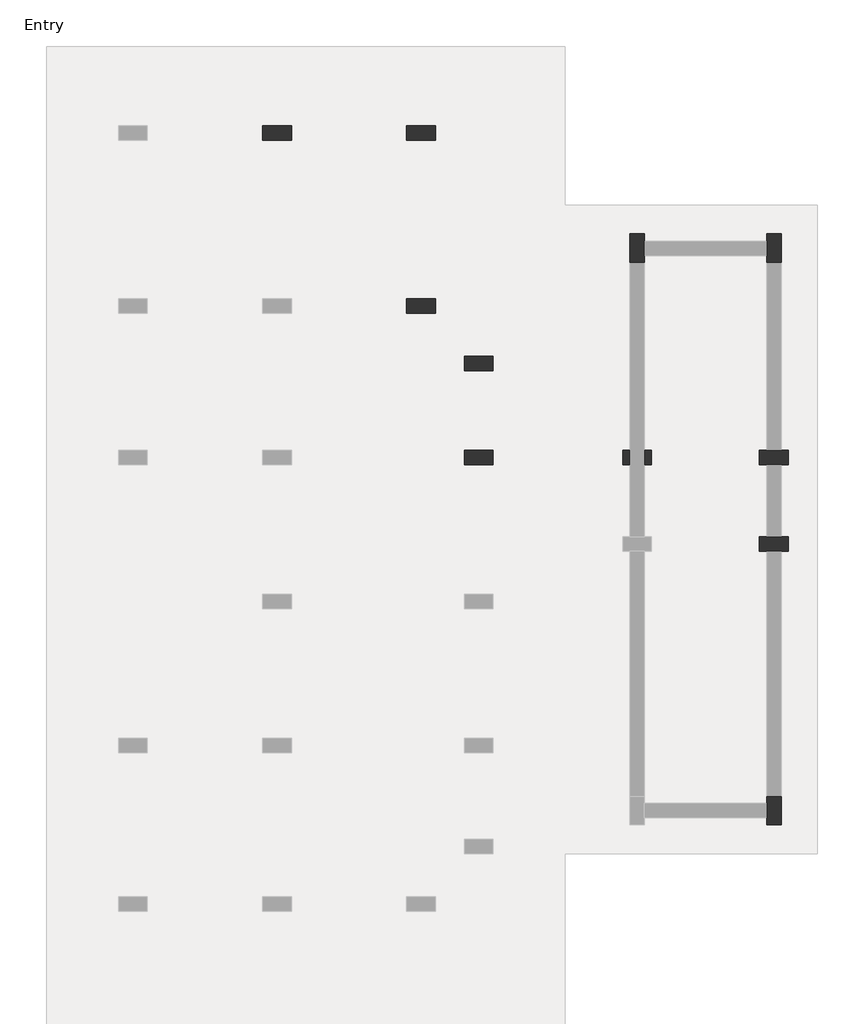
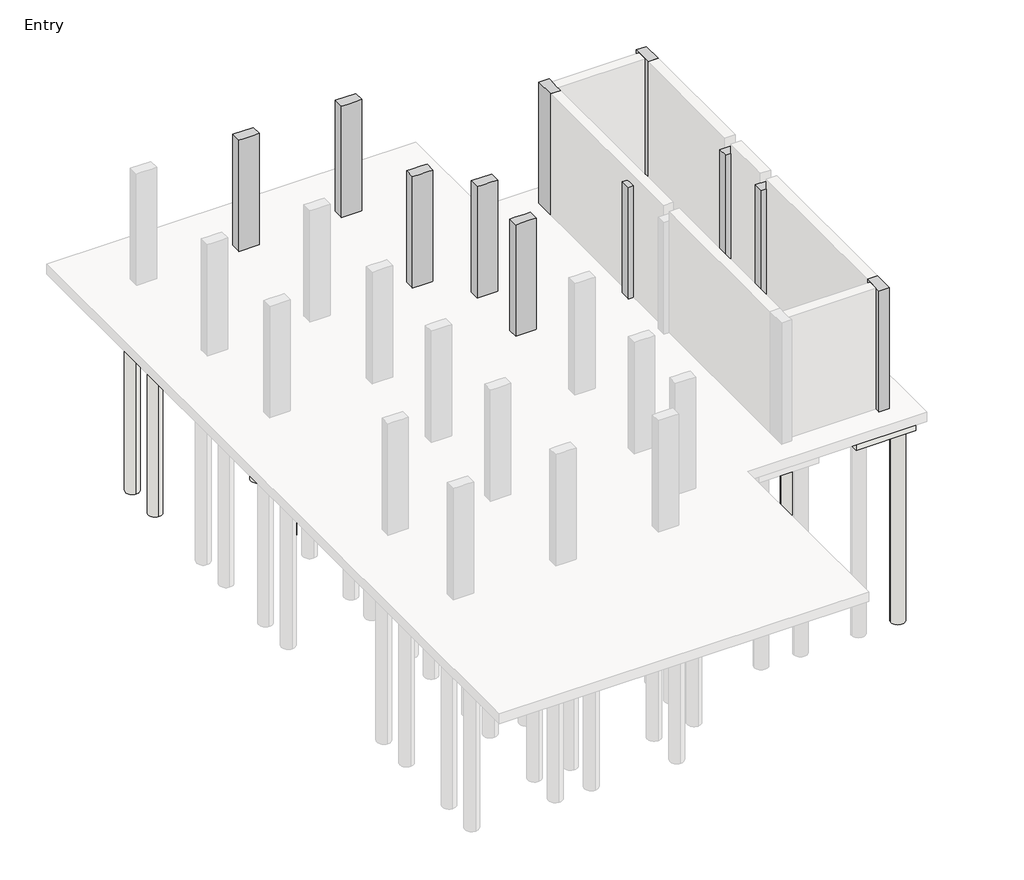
# One storey, part 3 of 3: 35 slabs, 11 columns.
"""IFC4 building model written with IfcOpenShell, lengths in millimetres."""

import ifcopenshell
import ifcopenshell.guid

model = None  # the IFC model being written
_history = None  # IfcOwnerHistory: only IFC2X3 demands one
_inside = {}  # id of a spatial element -> (the spatial element, [elements in it])
_under = {}  # id of a project, library or spatial element -> (it, [spatial elements below it])
_declared = {}  # id of a project -> (the project, [libraries it declares])
_typed = {}  # id of a type object -> (the type object, [elements of that type])
_made_of = {}  # id of a material, layer set ... -> (it, [elements and type objects made of it])


def new_model(schema):
    """Start an empty IFC model of exactly this schema.

    Asked for "IFC4X3", IfcOpenShell would pick the latest addendum, in which some entities
    have other attributes; the version numbers below select the first issue.
    IFC2X3 requires an IfcOwnerHistory on every rooted entity: one is made here for all.
    """
    global model, _history
    if schema == "IFC4X3":
        model = ifcopenshell.file(schema_version=(4, 3, 0, 0))
    else:
        model = ifcopenshell.file(schema=schema)
    _inside.clear()
    _under.clear()
    _declared.clear()
    _typed.clear()
    _made_of.clear()
    _history = None
    if model.schema == "IFC2X3":
        org = make("IfcOrganization", Name="unknown")
        user = make(
            "IfcPersonAndOrganization",
            ThePerson=make("IfcPerson", FamilyName="unknown"),
            TheOrganization=org,
        )
        app = make(
            "IfcApplication",
            ApplicationDeveloper=org,
            Version="unknown",
            ApplicationFullName="unknown",
            ApplicationIdentifier="unknown",
        )
        _history = make(
            "IfcOwnerHistory",
            OwningUser=user,
            OwningApplication=app,
            ChangeAction="ADDED",
            CreationDate=0,
        )
    return model


def make(cls, **values):
    """One entity of the class cls with the attributes given. An attribute that is None is left unset."""
    return model.create_entity(
        cls, **{name: value for name, value in values.items() if value is not None}
    )


def rooted(cls, **values):
    """An entity with a GlobalId (a new one), such as an element, a storey or a relation."""
    return make(cls, GlobalId=ifcopenshell.guid.new(), OwnerHistory=_history, **values)


def si_unit(unit_type, name, prefix=None):
    """IfcSIUnit, for example si_unit("LENGTHUNIT", "METRE", prefix="MILLI")."""
    return make("IfcSIUnit", UnitType=unit_type, Prefix=prefix, Name=name)


def assignment(units):
    """IfcUnitAssignment: the units of a project."""
    return None if units is None else make("IfcUnitAssignment", Units=units)


def point(xyz):
    """IfcCartesianPoint."""
    return None if xyz is None else make("IfcCartesianPoint", Coordinates=xyz)


def direction(xyz):
    """IfcDirection."""
    return None if xyz is None else make("IfcDirection", DirectionRatios=xyz)


def frame(location, z_axis=None, x_axis=None):
    """IfcAxis2Placement3D, a coordinate frame: its origin and axes. An axis left out is left unset."""
    return make(
        "IfcAxis2Placement3D",
        Location=point(location),
        Axis=direction(z_axis),
        RefDirection=direction(x_axis),
    )


def frame_2d(location, x_axis=None):
    """IfcAxis2Placement2D, a coordinate frame in the plane: its origin and x axis."""
    return make(
        "IfcAxis2Placement2D", Location=point(location), RefDirection=direction(x_axis)
    )


def origin():
    """The frame at (0, 0, 0) with its axes left unset."""
    return frame((0.0, 0.0, 0.0))


def origin_with_axes():
    """The frame at (0, 0, 0) with the z axis (0, 0, 1) and the x axis (1, 0, 0) written out."""
    return frame((0.0, 0.0, 0.0), z_axis=(0.0, 0.0, 1.0), x_axis=(1.0, 0.0, 0.0))


def place(relative_to, where):
    """IfcLocalPlacement: puts the frame where relative to a parent placement (None: the world)."""
    return make(
        "IfcLocalPlacement", PlacementRelTo=relative_to, RelativePlacement=where
    )


def context(
    kind, dimensions, precision=None, world=None, true_north=None, identifier=None
):
    """IfcGeometricRepresentationContext, for example the 3D "Model" context."""
    return make(
        "IfcGeometricRepresentationContext",
        ContextIdentifier=identifier,
        ContextType=kind,
        CoordinateSpaceDimension=dimensions,
        Precision=precision,
        WorldCoordinateSystem=world,
        TrueNorth=true_north,
    )


def project(units=None, contexts=None):
    """IfcProject with its units and contexts."""
    return rooted(
        "IfcProject",
        Name="project",
        RepresentationContexts=contexts,
        UnitsInContext=assignment(units),
    )


def spatial(cls, under=None, at=None, **own):
    """A site, building, storey or space (cls), placed at a placement, below another one or the project."""
    s = rooted(cls, ObjectPlacement=at, **own)
    if under is not None:
        _under.setdefault(under.id(), (under, []))[1].append(s)
    return s


def polyline(points):
    """IfcPolyline through the points."""
    return make("IfcPolyline", Points=[point(p) for p in points])


def circle_curve(where, radius):
    """IfcCircle in the frame where."""
    return make("IfcCircle", Position=where, Radius=radius)


def trimmed(basis, trim1, trim2, sense, master):
    """IfcTrimmedCurve: the piece of a basis curve between two trims."""
    return make(
        "IfcTrimmedCurve",
        BasisCurve=basis,
        Trim1=trim1,
        Trim2=trim2,
        SenseAgreement=sense,
        MasterRepresentation=master,
    )


def segment(curve, same_sense, transition):
    """IfcCompositeCurveSegment."""
    return make(
        "IfcCompositeCurveSegment",
        Transition=transition,
        SameSense=same_sense,
        ParentCurve=curve,
    )


def composite_curve(segments, self_intersect=None):
    """IfcCompositeCurve: segments joined end to end."""
    return make("IfcCompositeCurve", Segments=segments, SelfIntersect=self_intersect)


def outline(outer, holes=None, kind="AREA"):
    """IfcArbitraryClosedProfileDef: a profile drawn as a closed curve; with holes, ...WithVoids."""
    if holes is None:
        return make("IfcArbitraryClosedProfileDef", ProfileType=kind, OuterCurve=outer)
    return make(
        "IfcArbitraryProfileDefWithVoids",
        ProfileType=kind,
        OuterCurve=outer,
        InnerCurves=holes,
    )


def extrude(swept, where, along, depth):
    """IfcExtrudedAreaSolid: the profile swept, set in the frame where, extruded along a direction by depth."""
    return make(
        "IfcExtrudedAreaSolid",
        SweptArea=swept,
        Position=where,
        ExtrudedDirection=direction(along),
        Depth=depth,
    )


def faces_of(points, faces, orient=None, outer=None):
    """IfcFace entities. A face is a list of loops; a loop is a list of indices into points, from 0.

    orient and outer hold one flag for each loop. By default every Orientation is true, the
    first loop of a face is its IfcFaceOuterBound and the others are IfcFaceBound.
    """
    made = []
    for i, loops in enumerate(faces):
        bounds = []
        for j, loop in enumerate(loops):
            is_outer = j == 0 if outer is None else outer[i][j]
            bounds.append(
                make(
                    "IfcFaceOuterBound" if is_outer else "IfcFaceBound",
                    Bound=make("IfcPolyLoop", Polygon=[points[k] for k in loop]),
                    Orientation=True if orient is None else orient[i][j],
                )
            )
        made.append(make("IfcFace", Bounds=bounds))
    return made


def faceted_brep(points, faces, orient=None, outer=None, voids=None):
    """IfcFacetedBrep: a solid bounded by flat faces; with voids (closed shells), ...WithVoids."""
    shared = [point(p) for p in points]
    hull = make("IfcClosedShell", CfsFaces=faces_of(shared, faces, orient, outer))
    if voids is None:
        return make("IfcFacetedBrep", Outer=hull)
    return make(
        "IfcFacetedBrepWithVoids",
        Outer=hull,
        Voids=[
            make(cls, CfsFaces=faces_of(shared, fs, o, b)) for cls, fs, o, b in voids
        ],
    )


def shape(context_of_items, identifier, shape_type, items):
    """IfcShapeRepresentation: the items that make up one representation, for example the "Body"."""
    return make(
        "IfcShapeRepresentation",
        ContextOfItems=context_of_items,
        RepresentationIdentifier=identifier,
        RepresentationType=shape_type,
        Items=items,
    )


def made_of(thing, what):
    """Note that an element or type object is made of a material, layer set ...; save() writes the relation."""
    if what is not None:
        _made_of.setdefault(what.id(), (what, []))[1].append(thing)
    return thing


def element(
    cls,
    number,
    at=None,
    inside=None,
    cuts=None,
    type_object=None,
    material=None,
    context=None,
    identifier="Body",
    shape_type=None,
    held_by="IfcProductDefinitionShape",
    body=None,
    shapes=None,
    **own,
):
    """One element of the class cls, such as IfcWall. Its Tag is "e" and its number.

    at: its placement. inside: the storey or other place that contains it. cuts: it is an
    opening in that element (IfcRelVoidsElement). A single representation is given by context,
    identifier, shape_type and body (its items); several are given by shapes. held_by: the class
    of the entity that holds the representations. save() writes the other relations.
    """
    e = rooted(cls, Tag="e%d" % number, ObjectPlacement=at, **own)
    if body is not None:
        shapes = [shape(context, identifier, shape_type, body)]
    if shapes is not None:
        e.Representation = make(held_by, Representations=shapes)
    if inside is not None:
        _inside.setdefault(inside.id(), (inside, []))[1].append(e)
    if cuts is not None:
        rooted(
            "IfcRelVoidsElement", RelatingBuildingElement=cuts, RelatedOpeningElement=e
        )
    if type_object is not None:
        _typed.setdefault(type_object.id(), (type_object, []))[1].append(e)
    return made_of(e, material)


def aggregate(whole, parts):
    """IfcRelAggregates: a whole, such as a stair, and the parts it consists of."""
    return rooted("IfcRelAggregates", RelatingObject=whole, RelatedObjects=parts)


def save(model, path):
    """Write the relations noted so far, then the file.

    IfcRelAggregates (storeys below a building ...), IfcRelContainedInSpatialStructure (elements
    in a storey), IfcRelDefinesByType, IfcRelAssociatesMaterial and IfcRelDeclares: one each for
    every whole, place, type object, material and project.
    """
    for whole, parts in _under.values():
        aggregate(whole, parts)
    for where, things in _inside.values():
        rooted(
            "IfcRelContainedInSpatialStructure",
            RelatedElements=things,
            RelatingStructure=where,
        )
    for kind, things in _typed.values():
        rooted("IfcRelDefinesByType", RelatedObjects=things, RelatingType=kind)
    for what, things in _made_of.values():
        rooted("IfcRelAssociatesMaterial", RelatedObjects=things, RelatingMaterial=what)
    for by, libraries in _declared.values():
        rooted("IfcRelDeclares", RelatingContext=by, RelatedDefinitions=libraries)
    model.write(path)


model = new_model("IFC4")

# Units and contexts
model_context = context("Model", 3, world=origin())
ifc_project = project(units=[si_unit("LENGTHUNIT", "METRE", prefix="MILLI")], contexts=[model_context])

# Site, building, storey
site = spatial("IfcSite", under=ifc_project)
building = spatial("IfcBuilding", under=site)
storey = spatial("IfcBuildingStorey", under=building, Name="Entry", Elevation=0.0)

# Columns
placement = place(None, origin())
element("IfcColumn", 1, ObjectType="Concrete-Rectangular-Column : 12 x 24", at=placement, inside=storey, context=model_context, shape_type="Brep", body=[
    faceted_brep([(-10423.1073204, 23769.0572372, 0.0), (-9813.5073204, 23769.0572372, 0.0), (-9813.5073204, 23464.2572372, 0.0), (-10423.1073204, 23464.2572372, 0.0), (-10423.1073204, 23769.0572372, 3505.2), (-9813.5073204, 23769.0572372, 3505.2), (-9813.5073204, 23769.0572372, 2895.6), (-10423.1073204, 23769.0572372, 2895.6), (-9813.5073204, 23464.2572372, 3505.2), (-9813.5073204, 23464.2572372, 2895.6), (-9965.9073204, 23464.2572372, 3505.2), (-10270.7073204, 23464.2572372, 3505.2), (-10423.1073204, 23464.2572372, 3505.2), (-10423.1073204, 23464.2572372, 2895.6)], [[[0, 1, 2, 3]], [[4, 5, 6, 1, 0, 7]], [[5, 8, 9, 2, 1, 6]], [[8, 10, 11, 12, 13, 3, 2, 9]], [[12, 4, 7, 0, 3, 13]], [[4, 12, 11, 10, 8, 5]]]),
])
element("IfcColumn", 2, ObjectType="Concrete-Rectangular-Column : 12 x 24", at=placement, inside=storey, context=model_context, shape_type="Brep", body=[
    faceted_brep([(-7375.1073204, 23769.0572372, 0.0), (-6765.5073204, 23769.0572372, 0.0), (-6765.5073204, 23464.2572372, 0.0), (-7375.1073204, 23464.2572372, 0.0), (-7375.1073204, 23769.0572372, 3505.2), (-6765.5073204, 23769.0572372, 3505.2), (-7375.1073204, 23769.0572372, 2895.6), (-6765.5073204, 23464.2572372, 3505.2), (-6917.9073204, 23464.2572372, 3505.2), (-7222.7073204, 23464.2572372, 3505.2), (-7375.1073204, 23464.2572372, 3505.2), (-7375.1073204, 23464.2572372, 2895.6)], [[[0, 1, 2, 3]], [[4, 5, 1, 0, 6]], [[5, 7, 2, 1]], [[7, 8, 9, 10, 11, 3, 2]], [[10, 4, 6, 0, 3, 11]], [[4, 10, 9, 8, 7, 5]]]),
])
element("IfcColumn", 3, ObjectType="Concrete-Rectangular-Column : 12 x 24", at=placement, inside=storey, context=model_context, shape_type="Brep", body=[
    faceted_brep([(-7375.1073204, 20111.4572372, 0.0), (-6765.5073204, 20111.4572372, 0.0), (-6765.5073204, 19806.6572372, 0.0), (-7375.1073204, 19806.6572372, 0.0), (-7375.1073204, 20111.4572372, 3505.2), (-7222.7073204, 20111.4572372, 3505.2), (-6917.9073204, 20111.4572372, 3505.2), (-6765.5073204, 20111.4572372, 3505.2), (-7375.1073204, 20111.4572372, 2895.6), (-6765.5073204, 19806.6572372, 3505.2), (-6917.9073204, 19806.6572372, 3505.2), (-7222.7073204, 19806.6572372, 3505.2), (-7375.1073204, 19806.6572372, 3505.2), (-7375.1073204, 19806.6572372, 2895.6)], [[[0, 1, 2, 3]], [[4, 5, 6, 7, 1, 0, 8]], [[7, 9, 2, 1]], [[9, 10, 11, 12, 13, 3, 2]], [[12, 4, 8, 0, 3, 13]], [[4, 12, 11, 10, 9, 7, 6, 5]]]),
])
element("IfcColumn", 4, ObjectType="Concrete-Rectangular-Column : 12 x 24", at=placement, inside=storey, context=model_context, shape_type="Brep", body=[
    faceted_brep([(-6156.6500241, 18892.9999409, 0.0), (-5547.0500241, 18892.9999409, 0.0), (-5547.0500241, 18588.1999409, 0.0), (-6156.6500241, 18588.1999409, 0.0), (-6156.6500241, 18892.9999409, 3505.2), (-5547.0500241, 18892.9999409, 3505.2), (-6156.6500241, 18892.9999409, 2895.6), (-5547.0500241, 18588.1999409, 3505.2), (-5699.4500241, 18588.1999409, 3505.2), (-6004.2500241, 18588.1999409, 3505.2), (-6156.6500241, 18588.1999409, 3505.2), (-6156.6500241, 18588.1999409, 2895.6)], [[[0, 1, 2, 3]], [[4, 5, 1, 0, 6]], [[5, 7, 2, 1]], [[7, 8, 9, 10, 11, 3, 2]], [[10, 4, 6, 0, 3, 11]], [[4, 10, 9, 8, 7, 5]]]),
])
element("IfcColumn", 5, ObjectType="Concrete-Rectangular-Column : 12 x 24", at=placement, inside=storey, context=model_context, shape_type="Brep", body=[
    faceted_brep([(-6156.6500241, 16911.0572372, 0.0), (-5547.0500241, 16911.0572372, 0.0), (-5547.0500241, 16606.2572372, 0.0), (-6156.6500241, 16606.2572372, 0.0), (-6156.6500241, 16911.0572372, 3505.2), (-6004.2500241, 16911.0572372, 3505.2), (-5699.4500241, 16911.0572372, 3505.2), (-5547.0500241, 16911.0572372, 3505.2), (-5547.0500241, 16911.0572372, 2895.6), (-6156.6500241, 16911.0572372, 2895.6), (-5547.0500241, 16606.2572372, 3505.2), (-5547.0500241, 16606.2572372, 2895.6), (-5699.4500241, 16606.2572372, 3505.2), (-6004.2500241, 16606.2572372, 3505.2), (-6156.6500241, 16606.2572372, 3505.2), (-6156.6500241, 16606.2572372, 2895.6)], [[[0, 1, 2, 3]], [[4, 5, 6, 7, 8, 1, 0, 9]], [[7, 10, 11, 2, 1, 8]], [[10, 12, 13, 14, 15, 3, 2, 11]], [[14, 4, 9, 0, 3, 15]], [[4, 14, 13, 12, 10, 7, 6, 5]]]),
])
element("IfcColumn", 6, ObjectType="Concrete-Rectangular-Column : 12 x 24", at=placement, inside=storey, context=model_context, shape_type="SweptSolid", body=[
    extrude(outline(polyline([(-2803.8500241, 16606.2572372), (-2803.8500241, 16911.0572372), (-2651.4500241, 16911.0572372), (-2651.4500241, 16606.2572372), (-2803.8500241, 16606.2572372)])), origin_with_axes(), (0.0, 0.0, 1.0), 3505.2),
    extrude(outline(polyline([(-2194.2500241, 16911.0572372), (-2194.2500241, 16606.2572372), (-2346.6500241, 16606.2572372), (-2346.6500241, 16911.0572372), (-2194.2500241, 16911.0572372)])), origin_with_axes(), (0.0, 0.0, 1.0), 3505.2),
])
element("IfcColumn", 7, ObjectType="Concrete-Rectangular-Column : 12 x 24", at=placement, inside=storey, context=model_context, shape_type="Brep", body=[
    faceted_brep([(89.9860546, 16911.0572372, 0.0), (242.3860546, 16911.0572372, 0.0), (547.1860546, 16911.0572372, 0.0), (699.5860546, 16911.0572372, 0.0), (699.5860546, 16606.2572372, 0.0), (547.1860546, 16606.2572372, 0.0), (242.3860546, 16606.2572372, 0.0), (89.9860546, 16606.2572372, 0.0), (89.9860546, 16911.0572372, 3505.2), (699.5860546, 16911.0572372, 3505.2), (699.5860546, 16606.2572372, 3505.2), (89.9860546, 16606.2572372, 3505.2)], [[[0, 1, 2, 3, 4, 5, 6, 7]], [[3, 2, 1, 0, 8, 9]], [[4, 3, 9, 10]], [[7, 6, 5, 4, 10, 11]], [[0, 7, 11, 8]], [[9, 8, 11, 10]]]),
])
element("IfcColumn", 8, ObjectType="Concrete-Rectangular-Column : 12 x 24", at=placement, inside=storey, context=model_context, shape_type="Brep", body=[
    faceted_brep([(89.9860546, 15082.2572372, 0.0), (242.3860546, 15082.2572372, 0.0), (547.1860546, 15082.2572372, 0.0), (699.5860546, 15082.2572372, 0.0), (699.5860546, 14777.4572372, 0.0), (547.1860546, 14777.4572372, 0.0), (242.3860546, 14777.4572372, 0.0), (89.9860546, 14777.4572372, 0.0), (89.9860546, 15082.2572372, 3505.2), (699.5860546, 15082.2572372, 3505.2), (699.5860546, 14777.4572372, 3505.2), (89.9860546, 14777.4572372, 3505.2)], [[[0, 1, 2, 3, 4, 5, 6, 7]], [[3, 2, 1, 0, 8, 9]], [[4, 3, 9, 10]], [[7, 6, 5, 4, 10, 11]], [[0, 7, 11, 8]], [[9, 8, 11, 10]]]),
])
element("IfcColumn", 9, ObjectType="Concrete-Rectangular-Column : 12 x 24", at=placement, inside=storey, context=model_context, shape_type="Brep", body=[
    faceted_brep([(-2346.6500241, 21483.0572372, 0.0), (-2346.6500241, 21330.6572372, 0.0), (-2346.6500241, 21025.8572372, 0.0), (-2346.6500241, 20873.4572372, 0.0), (-2651.4500241, 20873.4572372, 0.0), (-2651.4500241, 21483.0572372, 0.0), (-2346.6500241, 21483.0572372, 3810.0), (-2346.6500241, 21330.6572372, 3810.0), (-2346.6500241, 21025.8572372, 3810.0), (-2346.6500241, 20873.4572372, 3810.0), (-2651.4500241, 20873.4572372, 3810.0), (-2651.4500241, 21483.0572372, 3810.0)], [[[0, 1, 2, 3, 4, 5]], [[6, 7, 8, 9, 3, 2, 1, 0]], [[9, 10, 4, 3]], [[10, 11, 5, 4]], [[11, 6, 0, 5]], [[6, 11, 10, 9, 8, 7]]]),
])
element("IfcColumn", 10, ObjectType="Concrete-Rectangular-Column : 12 x 24", at=placement, inside=storey, context=model_context, shape_type="Brep", body=[
    faceted_brep([(547.1860546, 21483.0572372, 0.0), (547.1860546, 20873.4572372, 0.0), (242.3860546, 20873.4572372, 0.0), (242.3860546, 21025.8572372, 0.0), (242.3860546, 21330.6572372, 0.0), (242.3860546, 21483.0572372, 0.0), (547.1860546, 21483.0572372, 3810.0), (547.1860546, 20873.4572372, 3810.0), (242.3860546, 20873.4572372, 3810.0), (242.3860546, 21025.8572372, 3810.0), (242.3860546, 21330.6572372, 3810.0), (242.3860546, 21483.0572372, 3810.0)], [[[0, 1, 2, 3, 4, 5]], [[6, 7, 1, 0]], [[7, 8, 2, 1]], [[8, 9, 10, 11, 5, 4, 3, 2]], [[11, 6, 0, 5]], [[6, 11, 10, 9, 8, 7]]]),
])
element("IfcColumn", 11, ObjectType="Concrete-Rectangular-Column : 12 x 24", at=placement, inside=storey, context=model_context, shape_type="Brep", body=[
    faceted_brep([(547.1860546, 9595.8572372, 0.0), (547.1860546, 8986.2572372, 0.0), (242.3860546, 8986.2572372, 0.0), (242.3860546, 9138.6572372, 0.0), (242.3860546, 9443.4572372, 0.0), (242.3860546, 9595.8572372, 0.0), (547.1860546, 9595.8572372, 3810.0), (547.1860546, 8986.2572372, 3810.0), (242.3860546, 8986.2572372, 3810.0), (242.3860546, 9138.6572372, 3810.0), (242.3860546, 9443.4572372, 3810.0), (242.3860546, 9595.8572372, 3810.0)], [[[0, 1, 2, 3, 4, 5]], [[6, 7, 1, 0]], [[7, 8, 2, 1]], [[8, 9, 10, 11, 5, 4, 3, 2]], [[11, 6, 0, 5]], [[6, 11, 10, 9, 8, 7]]]),
])

# Slabs
element("IfcSlab", 12, ObjectType="Pile Cap-2 Pile : 31\"x61\"x35\"", at=placement, inside=storey, context=model_context, shape_type="SweptSolid", body=[
    extrude(outline(polyline([(-7476.7073204, 20848.0572372), (-6663.9073204, 20848.0572372), (-6663.9073204, 19070.0572372), (-7476.7073204, 19070.0572372), (-7476.7073204, 20848.0572372)])), frame((0.0, 0.0, -889.0), z_axis=(0.0, 0.0, 1.0), x_axis=(1.0, 0.0, 0.0)), (0.0, 0.0, 1.0), 584.2),
])
element("IfcSlab", 13, ObjectType="Pile Cap-2 Pile : 31\"x61\"x35\"", at=placement, inside=storey, context=model_context, shape_type="SweptSolid", body=[
    extrude(outline(polyline([(-10524.7073204, 24505.6572372), (-9711.9073204, 24505.6572372), (-9711.9073204, 22727.6572372), (-10524.7073204, 22727.6572372), (-10524.7073204, 24505.6572372)])), frame((0.0, 0.0, -889.0), z_axis=(0.0, 0.0, 1.0), x_axis=(1.0, 0.0, 0.0)), (0.0, 0.0, 1.0), 584.2),
])
element("IfcSlab", 14, ObjectType="Pile Cap-2 Pile : 31\"x61\"x35\"", at=placement, inside=storey, context=model_context, shape_type="SweptSolid", body=[
    extrude(outline(polyline([(-7476.7073204, 24505.6572372), (-6663.9073204, 24505.6572372), (-6663.9073204, 22727.6572372), (-7476.7073204, 22727.6572372), (-7476.7073204, 24505.6572372)])), frame((0.0, 0.0, -889.0), z_axis=(0.0, 0.0, 1.0), x_axis=(1.0, 0.0, 0.0)), (0.0, 0.0, 1.0), 584.2),
])
element("IfcSlab", 15, ObjectType="Pile Cap-2 Pile : 31\"x61\"x35\"", at=placement, inside=storey, context=model_context, shape_type="SweptSolid", body=[
    extrude(outline(polyline([(-6258.2500241, 17647.6572372), (-5445.4500241, 17647.6572372), (-5445.4500241, 15869.6572372), (-6258.2500241, 15869.6572372), (-6258.2500241, 17647.6572372)])), frame((0.0, 0.0, -889.0), z_axis=(0.0, 0.0, 1.0), x_axis=(1.0, 0.0, 0.0)), (0.0, 0.0, 1.0), 584.2),
])
element("IfcSlab", 16, ObjectType="Pile Cap-2 Pile : 31\"x61\"x35\"", at=placement, inside=storey, context=model_context, shape_type="SweptSolid", body=[
    extrude(outline(polyline([(-1610.0500241, 21584.6572372), (-1610.0500241, 20771.8572372), (-3388.0500241, 20771.8572372), (-3388.0500241, 21584.6572372), (-1610.0500241, 21584.6572372)])), frame((0.0, 0.0, -889.0), z_axis=(0.0, 0.0, 1.0), x_axis=(1.0, 0.0, 0.0)), (0.0, 0.0, 1.0), 584.2),
])
element("IfcSlab", 17, ObjectType="Pile Cap-2 Pile : 31\"x61\"x35\"", at=placement, inside=storey, context=model_context, shape_type="SweptSolid", body=[
    extrude(outline(polyline([(1283.7860546, 21584.6572372), (1283.7860546, 20771.8572372), (-494.2139454, 20771.8572372), (-494.2139454, 21584.6572372), (1283.7860546, 21584.6572372)])), frame((0.0, 0.0, -889.0), z_axis=(0.0, 0.0, 1.0), x_axis=(1.0, 0.0, 0.0)), (0.0, 0.0, 1.0), 584.2),
])
element("IfcSlab", 18, ObjectType="Pile Cap-2 Pile : 31\"x61\"x35\"", at=placement, inside=storey, context=model_context, shape_type="SweptSolid", body=[
    extrude(outline(polyline([(-494.2139454, 16352.2572372), (-494.2139454, 17165.0572372), (1283.7860546, 17165.0572372), (1283.7860546, 16352.2572372), (-494.2139454, 16352.2572372)])), frame((0.0, 0.0, -889.0), z_axis=(0.0, 0.0, 1.0), x_axis=(1.0, 0.0, 0.0)), (0.0, 0.0, 1.0), 584.2),
])
element("IfcSlab", 19, ObjectType="Pile Cap-2 Pile : 31\"x61\"x35\"", at=placement, inside=storey, context=model_context, shape_type="SweptSolid", body=[
    extrude(outline(polyline([(-494.2139454, 14523.4572372), (-494.2139454, 15336.2572372), (1283.7860546, 15336.2572372), (1283.7860546, 14523.4572372), (-494.2139454, 14523.4572372)])), frame((0.0, 0.0, -889.0), z_axis=(0.0, 0.0, 1.0), x_axis=(1.0, 0.0, 0.0)), (0.0, 0.0, 1.0), 584.2),
])
element("IfcSlab", 20, ObjectType="Pile Cap-2 Pile : 31\"x61\"x35\"", at=placement, inside=storey, context=model_context, shape_type="SweptSolid", body=[
    extrude(outline(polyline([(-3388.0500241, 16352.2572372), (-3388.0500241, 17165.0572372), (-1610.0500241, 17165.0572372), (-1610.0500241, 16352.2572372), (-3388.0500241, 16352.2572372)])), frame((0.0, 0.0, -889.0), z_axis=(0.0, 0.0, 1.0), x_axis=(1.0, 0.0, 0.0)), (0.0, 0.0, 1.0), 584.2),
])
element("IfcSlab", 21, ObjectType="Pile Cap-2 Pile : 31\"x61\"x35\"", at=placement, inside=storey, context=model_context, shape_type="SweptSolid", body=[
    extrude(outline(polyline([(1283.7860546, 9697.4572372), (1283.7860546, 8884.6572372), (-494.2139454, 8884.6572372), (-494.2139454, 9697.4572372), (1283.7860546, 9697.4572372)])), frame((0.0, 0.0, -889.0), z_axis=(0.0, 0.0, 1.0), x_axis=(1.0, 0.0, 0.0)), (0.0, 0.0, 1.0), 584.2),
])
element("IfcSlab", 22, ObjectType="Pile Cap-2 Pile : 31\"x61\"x35\"", at=placement, inside=storey, context=model_context, shape_type="SweptSolid", body=[
    extrude(outline(polyline([(-5445.4500241, 17850.8572372), (-6258.2500241, 17850.8572372), (-6258.2500241, 19628.8572372), (-5445.4500241, 19628.8572372), (-5445.4500241, 17850.8572372)])), frame((0.0, 0.0, -889.0), z_axis=(0.0, 0.0, 1.0), x_axis=(1.0, 0.0, 0.0)), (0.0, 0.0, 1.0), 584.2),
])
element("IfcSlab", 23, ObjectType="Pile-Steel Pipe : 16\" Diameter", at=placement, inside=storey, context=model_context, shape_type="SweptSolid", body=[
    extrude(outline(composite_curve([segment(trimmed(circle_curve(frame_2d((-9584.9073204, 20492.4572372)), 203.2), [point((-9584.9073204, 20289.2572372))], [point((-9584.9073204, 20695.6572372))], False, "CARTESIAN"), True, "CONTINUOUS"), segment(trimmed(circle_curve(frame_2d((-9584.9073204, 20492.4572372)), 203.2), [point((-9584.9073204, 20695.6572372))], [point((-9584.9073204, 20289.2572372))], False, "CARTESIAN"), True, "CONTINUOUS")], self_intersect=False)), frame((0.0, 0.0, -6985.0), z_axis=(0.0, 0.0, 1.0), x_axis=(1.0, 0.0, 0.0)), (0.0, 0.0, 1.0), 6096.0),
])
element("IfcSlab", 24, ObjectType="Pile-Steel Pipe : 16\" Diameter", at=placement, inside=storey, context=model_context, shape_type="SweptSolid", body=[
    extrude(outline(composite_curve([segment(trimmed(circle_curve(frame_2d((-10651.7073204, 20492.4572372)), 203.2), [point((-10651.7073204, 20289.2572372))], [point((-10651.7073204, 20695.6572372))], False, "CARTESIAN"), True, "CONTINUOUS"), segment(trimmed(circle_curve(frame_2d((-10651.7073204, 20492.4572372)), 203.2), [point((-10651.7073204, 20695.6572372))], [point((-10651.7073204, 20289.2572372))], False, "CARTESIAN"), True, "CONTINUOUS")], self_intersect=False)), frame((0.0, 0.0, -6985.0), z_axis=(0.0, 0.0, 1.0), x_axis=(1.0, 0.0, 0.0)), (0.0, 0.0, 1.0), 6096.0),
])
element("IfcSlab", 25, ObjectType="Pile-Steel Pipe : 16\" Diameter", at=placement, inside=storey, context=model_context, shape_type="SweptSolid", body=[
    extrude(outline(composite_curve([segment(trimmed(circle_curve(frame_2d((-13166.3073204, 23032.4572372)), 203.2), [point((-13166.3073204, 22829.2572372))], [point((-13166.3073204, 23235.6572372))], False, "CARTESIAN"), True, "CONTINUOUS"), segment(trimmed(circle_curve(frame_2d((-13166.3073204, 23032.4572372)), 203.2), [point((-13166.3073204, 23235.6572372))], [point((-13166.3073204, 22829.2572372))], False, "CARTESIAN"), True, "CONTINUOUS")], self_intersect=False)), frame((0.0, 0.0, -6985.0), z_axis=(0.0, 0.0, 1.0), x_axis=(1.0, 0.0, 0.0)), (0.0, 0.0, 1.0), 6096.0),
])
element("IfcSlab", 26, ObjectType="Pile-Steel Pipe : 16\" Diameter", at=placement, inside=storey, context=model_context, shape_type="SweptSolid", body=[
    extrude(outline(composite_curve([segment(trimmed(circle_curve(frame_2d((-13166.3073204, 24200.8572372)), 203.2), [point((-13166.3073204, 23997.6572372))], [point((-13166.3073204, 24404.0572372))], False, "CARTESIAN"), True, "CONTINUOUS"), segment(trimmed(circle_curve(frame_2d((-13166.3073204, 24200.8572372)), 203.2), [point((-13166.3073204, 24404.0572372))], [point((-13166.3073204, 23997.6572372))], False, "CARTESIAN"), True, "CONTINUOUS")], self_intersect=False)), frame((0.0, 0.0, -6985.0), z_axis=(0.0, 0.0, 1.0), x_axis=(1.0, 0.0, 0.0)), (0.0, 0.0, 1.0), 6096.0),
])
element("IfcSlab", 27, ObjectType="Pile-Steel Pipe : 16\" Diameter", at=placement, inside=storey, context=model_context, shape_type="SweptSolid", body=[
    extrude(outline(composite_curve([segment(trimmed(circle_curve(frame_2d((-7070.3073204, 19374.8572372)), 203.2), [point((-7070.3073204, 19171.6572372))], [point((-7070.3073204, 19578.0572372))], False, "CARTESIAN"), True, "CONTINUOUS"), segment(trimmed(circle_curve(frame_2d((-7070.3073204, 19374.8572372)), 203.2), [point((-7070.3073204, 19578.0572372))], [point((-7070.3073204, 19171.6572372))], False, "CARTESIAN"), True, "CONTINUOUS")], self_intersect=False)), frame((0.0, 0.0, -6985.0), z_axis=(0.0, 0.0, 1.0), x_axis=(1.0, 0.0, 0.0)), (0.0, 0.0, 1.0), 6096.0),
])
element("IfcSlab", 28, ObjectType="Pile-Steel Pipe : 16\" Diameter", at=placement, inside=storey, context=model_context, shape_type="SweptSolid", body=[
    extrude(outline(composite_curve([segment(trimmed(circle_curve(frame_2d((-7070.3073204, 20543.2572372)), 203.2), [point((-7070.3073204, 20340.0572372))], [point((-7070.3073204, 20746.4572372))], False, "CARTESIAN"), True, "CONTINUOUS"), segment(trimmed(circle_curve(frame_2d((-7070.3073204, 20543.2572372)), 203.2), [point((-7070.3073204, 20746.4572372))], [point((-7070.3073204, 20340.0572372))], False, "CARTESIAN"), True, "CONTINUOUS")], self_intersect=False)), frame((0.0, 0.0, -6985.0), z_axis=(0.0, 0.0, 1.0), x_axis=(1.0, 0.0, 0.0)), (0.0, 0.0, 1.0), 6096.0),
])
element("IfcSlab", 29, ObjectType="Pile-Steel Pipe : 16\" Diameter", at=placement, inside=storey, context=model_context, shape_type="SweptSolid", body=[
    extrude(outline(composite_curve([segment(trimmed(circle_curve(frame_2d((-10118.3073204, 23032.4572372)), 203.2), [point((-10118.3073204, 22829.2572372))], [point((-10118.3073204, 23235.6572372))], False, "CARTESIAN"), True, "CONTINUOUS"), segment(trimmed(circle_curve(frame_2d((-10118.3073204, 23032.4572372)), 203.2), [point((-10118.3073204, 23235.6572372))], [point((-10118.3073204, 22829.2572372))], False, "CARTESIAN"), True, "CONTINUOUS")], self_intersect=False)), frame((0.0, 0.0, -6985.0), z_axis=(0.0, 0.0, 1.0), x_axis=(1.0, 0.0, 0.0)), (0.0, 0.0, 1.0), 6096.0),
])
element("IfcSlab", 30, ObjectType="Pile-Steel Pipe : 16\" Diameter", at=placement, inside=storey, context=model_context, shape_type="SweptSolid", body=[
    extrude(outline(composite_curve([segment(trimmed(circle_curve(frame_2d((-10118.3073204, 24200.8572372)), 203.2), [point((-10118.3073204, 23997.6572372))], [point((-10118.3073204, 24404.0572372))], False, "CARTESIAN"), True, "CONTINUOUS"), segment(trimmed(circle_curve(frame_2d((-10118.3073204, 24200.8572372)), 203.2), [point((-10118.3073204, 24404.0572372))], [point((-10118.3073204, 23997.6572372))], False, "CARTESIAN"), True, "CONTINUOUS")], self_intersect=False)), frame((0.0, 0.0, -6985.0), z_axis=(0.0, 0.0, 1.0), x_axis=(1.0, 0.0, 0.0)), (0.0, 0.0, 1.0), 6096.0),
])
element("IfcSlab", 31, ObjectType="Pile-Steel Pipe : 16\" Diameter", at=placement, inside=storey, context=model_context, shape_type="SweptSolid", body=[
    extrude(outline(composite_curve([segment(trimmed(circle_curve(frame_2d((-7070.3073204, 23032.4572372)), 203.2), [point((-7070.3073204, 22829.2572372))], [point((-7070.3073204, 23235.6572372))], False, "CARTESIAN"), True, "CONTINUOUS"), segment(trimmed(circle_curve(frame_2d((-7070.3073204, 23032.4572372)), 203.2), [point((-7070.3073204, 23235.6572372))], [point((-7070.3073204, 22829.2572372))], False, "CARTESIAN"), True, "CONTINUOUS")], self_intersect=False)), frame((0.0, 0.0, -6985.0), z_axis=(0.0, 0.0, 1.0), x_axis=(1.0, 0.0, 0.0)), (0.0, 0.0, 1.0), 6096.0),
])
element("IfcSlab", 32, ObjectType="Pile-Steel Pipe : 16\" Diameter", at=placement, inside=storey, context=model_context, shape_type="SweptSolid", body=[
    extrude(outline(composite_curve([segment(trimmed(circle_curve(frame_2d((-7070.3073204, 24200.8572372)), 203.2), [point((-7070.3073204, 23997.6572372))], [point((-7070.3073204, 24404.0572372))], False, "CARTESIAN"), True, "CONTINUOUS"), segment(trimmed(circle_curve(frame_2d((-7070.3073204, 24200.8572372)), 203.2), [point((-7070.3073204, 24404.0572372))], [point((-7070.3073204, 23997.6572372))], False, "CARTESIAN"), True, "CONTINUOUS")], self_intersect=False)), frame((0.0, 0.0, -6985.0), z_axis=(0.0, 0.0, 1.0), x_axis=(1.0, 0.0, 0.0)), (0.0, 0.0, 1.0), 6096.0),
])
element("IfcSlab", 33, ObjectType="Pile-Steel Pipe : 16\" Diameter", at=placement, inside=storey, context=model_context, shape_type="SweptSolid", body=[
    extrude(outline(composite_curve([segment(trimmed(circle_curve(frame_2d((-5851.8500241, 16174.4572372)), 203.2), [point((-5851.8500241, 15971.2572372))], [point((-5851.8500241, 16377.6572372))], False, "CARTESIAN"), True, "CONTINUOUS"), segment(trimmed(circle_curve(frame_2d((-5851.8500241, 16174.4572372)), 203.2), [point((-5851.8500241, 16377.6572372))], [point((-5851.8500241, 15971.2572372))], False, "CARTESIAN"), True, "CONTINUOUS")], self_intersect=False)), frame((0.0, 0.0, -6985.0), z_axis=(0.0, 0.0, 1.0), x_axis=(1.0, 0.0, 0.0)), (0.0, 0.0, 1.0), 6096.0),
])
element("IfcSlab", 34, ObjectType="Pile-Steel Pipe : 16\" Diameter", at=placement, inside=storey, context=model_context, shape_type="SweptSolid", body=[
    extrude(outline(composite_curve([segment(trimmed(circle_curve(frame_2d((-5851.8500241, 17342.8572372)), 203.2), [point((-5851.8500241, 17139.6572372))], [point((-5851.8500241, 17546.0572372))], False, "CARTESIAN"), True, "CONTINUOUS"), segment(trimmed(circle_curve(frame_2d((-5851.8500241, 17342.8572372)), 203.2), [point((-5851.8500241, 17546.0572372))], [point((-5851.8500241, 17139.6572372))], False, "CARTESIAN"), True, "CONTINUOUS")], self_intersect=False)), frame((0.0, 0.0, -6985.0), z_axis=(0.0, 0.0, 1.0), x_axis=(1.0, 0.0, 0.0)), (0.0, 0.0, 1.0), 6096.0),
])
element("IfcSlab", 35, ObjectType="Pile-Steel Pipe : 16\" Diameter", at=placement, inside=storey, context=model_context, shape_type="SweptSolid", body=[
    extrude(outline(composite_curve([segment(trimmed(circle_curve(frame_2d((-3083.2500241, 21178.2572372)), 203.2), [point((-3286.4500241, 21178.2572372))], [point((-2880.0500241, 21178.2572372))], False, "CARTESIAN"), True, "CONTINUOUS"), segment(trimmed(circle_curve(frame_2d((-3083.2500241, 21178.2572372)), 203.2), [point((-2880.0500241, 21178.2572372))], [point((-3286.4500241, 21178.2572372))], False, "CARTESIAN"), True, "CONTINUOUS")], self_intersect=False)), frame((0.0, 0.0, -6985.0), z_axis=(0.0, 0.0, 1.0), x_axis=(1.0, 0.0, 0.0)), (0.0, 0.0, 1.0), 6096.0),
])
element("IfcSlab", 36, ObjectType="Pile-Steel Pipe : 16\" Diameter", at=placement, inside=storey, context=model_context, shape_type="SweptSolid", body=[
    extrude(outline(composite_curve([segment(trimmed(circle_curve(frame_2d((-1914.8500241, 21178.2572372)), 203.2), [point((-2118.0500241, 21178.2572372))], [point((-1711.6500241, 21178.2572372))], False, "CARTESIAN"), True, "CONTINUOUS"), segment(trimmed(circle_curve(frame_2d((-1914.8500241, 21178.2572372)), 203.2), [point((-1711.6500241, 21178.2572372))], [point((-2118.0500241, 21178.2572372))], False, "CARTESIAN"), True, "CONTINUOUS")], self_intersect=False)), frame((0.0, 0.0, -6985.0), z_axis=(0.0, 0.0, 1.0), x_axis=(1.0, 0.0, 0.0)), (0.0, 0.0, 1.0), 6096.0),
])
element("IfcSlab", 37, ObjectType="Pile-Steel Pipe : 16\" Diameter", at=placement, inside=storey, context=model_context, shape_type="SweptSolid", body=[
    extrude(outline(composite_curve([segment(trimmed(circle_curve(frame_2d((-189.4139454, 21178.2572372)), 203.2), [point((-392.6139454, 21178.2572372))], [point((13.7860546, 21178.2572372))], False, "CARTESIAN"), True, "CONTINUOUS"), segment(trimmed(circle_curve(frame_2d((-189.4139454, 21178.2572372)), 203.2), [point((13.7860546, 21178.2572372))], [point((-392.6139454, 21178.2572372))], False, "CARTESIAN"), True, "CONTINUOUS")], self_intersect=False)), frame((0.0, 0.0, -6985.0), z_axis=(0.0, 0.0, 1.0), x_axis=(1.0, 0.0, 0.0)), (0.0, 0.0, 1.0), 6096.0),
])
element("IfcSlab", 38, ObjectType="Pile-Steel Pipe : 16\" Diameter", at=placement, inside=storey, context=model_context, shape_type="SweptSolid", body=[
    extrude(outline(composite_curve([segment(trimmed(circle_curve(frame_2d((978.9860546, 21178.2572372)), 203.2), [point((775.7860546, 21178.2572372))], [point((1182.1860546, 21178.2572372))], False, "CARTESIAN"), True, "CONTINUOUS"), segment(trimmed(circle_curve(frame_2d((978.9860546, 21178.2572372)), 203.2), [point((1182.1860546, 21178.2572372))], [point((775.7860546, 21178.2572372))], False, "CARTESIAN"), True, "CONTINUOUS")], self_intersect=False)), frame((0.0, 0.0, -6985.0), z_axis=(0.0, 0.0, 1.0), x_axis=(1.0, 0.0, 0.0)), (0.0, 0.0, 1.0), 6096.0),
])
element("IfcSlab", 39, ObjectType="Pile-Steel Pipe : 16\" Diameter", at=placement, inside=storey, context=model_context, shape_type="SweptSolid", body=[
    extrude(outline(composite_curve([segment(trimmed(circle_curve(frame_2d((978.9860546, 16758.6572372)), 203.2), [point((1182.1860546, 16758.6572372))], [point((775.7860546, 16758.6572372))], False, "CARTESIAN"), True, "CONTINUOUS"), segment(trimmed(circle_curve(frame_2d((978.9860546, 16758.6572372)), 203.2), [point((775.7860546, 16758.6572372))], [point((1182.1860546, 16758.6572372))], False, "CARTESIAN"), True, "CONTINUOUS")], self_intersect=False)), frame((0.0, 0.0, -6985.0), z_axis=(0.0, 0.0, 1.0), x_axis=(1.0, 0.0, 0.0)), (0.0, 0.0, 1.0), 6096.0),
])
element("IfcSlab", 40, ObjectType="Pile-Steel Pipe : 16\" Diameter", at=placement, inside=storey, context=model_context, shape_type="SweptSolid", body=[
    extrude(outline(composite_curve([segment(trimmed(circle_curve(frame_2d((-189.4139454, 16758.6572372)), 203.2), [point((13.7860546, 16758.6572372))], [point((-392.6139454, 16758.6572372))], False, "CARTESIAN"), True, "CONTINUOUS"), segment(trimmed(circle_curve(frame_2d((-189.4139454, 16758.6572372)), 203.2), [point((-392.6139454, 16758.6572372))], [point((13.7860546, 16758.6572372))], False, "CARTESIAN"), True, "CONTINUOUS")], self_intersect=False)), frame((0.0, 0.0, -6985.0), z_axis=(0.0, 0.0, 1.0), x_axis=(1.0, 0.0, 0.0)), (0.0, 0.0, 1.0), 6096.0),
])
element("IfcSlab", 41, ObjectType="Pile-Steel Pipe : 16\" Diameter", at=placement, inside=storey, context=model_context, shape_type="SweptSolid", body=[
    extrude(outline(composite_curve([segment(trimmed(circle_curve(frame_2d((978.9860546, 14929.8572372)), 203.2), [point((1182.1860546, 14929.8572372))], [point((775.7860546, 14929.8572372))], False, "CARTESIAN"), True, "CONTINUOUS"), segment(trimmed(circle_curve(frame_2d((978.9860546, 14929.8572372)), 203.2), [point((775.7860546, 14929.8572372))], [point((1182.1860546, 14929.8572372))], False, "CARTESIAN"), True, "CONTINUOUS")], self_intersect=False)), frame((0.0, 0.0, -6985.0), z_axis=(0.0, 0.0, 1.0), x_axis=(1.0, 0.0, 0.0)), (0.0, 0.0, 1.0), 6096.0),
])
element("IfcSlab", 42, ObjectType="Pile-Steel Pipe : 16\" Diameter", at=placement, inside=storey, context=model_context, shape_type="SweptSolid", body=[
    extrude(outline(composite_curve([segment(trimmed(circle_curve(frame_2d((-1914.8500241, 16758.6572372)), 203.2), [point((-1711.6500241, 16758.6572372))], [point((-2118.0500241, 16758.6572372))], False, "CARTESIAN"), True, "CONTINUOUS"), segment(trimmed(circle_curve(frame_2d((-1914.8500241, 16758.6572372)), 203.2), [point((-2118.0500241, 16758.6572372))], [point((-1711.6500241, 16758.6572372))], False, "CARTESIAN"), True, "CONTINUOUS")], self_intersect=False)), frame((0.0, 0.0, -6985.0), z_axis=(0.0, 0.0, 1.0), x_axis=(1.0, 0.0, 0.0)), (0.0, 0.0, 1.0), 6096.0),
])
element("IfcSlab", 43, ObjectType="Pile-Steel Pipe : 16\" Diameter", at=placement, inside=storey, context=model_context, shape_type="SweptSolid", body=[
    extrude(outline(composite_curve([segment(trimmed(circle_curve(frame_2d((-3083.2500241, 16758.6572372)), 203.2), [point((-2880.0500241, 16758.6572372))], [point((-3286.4500241, 16758.6572372))], False, "CARTESIAN"), True, "CONTINUOUS"), segment(trimmed(circle_curve(frame_2d((-3083.2500241, 16758.6572372)), 203.2), [point((-3286.4500241, 16758.6572372))], [point((-2880.0500241, 16758.6572372))], False, "CARTESIAN"), True, "CONTINUOUS")], self_intersect=False)), frame((0.0, 0.0, -6985.0), z_axis=(0.0, 0.0, 1.0), x_axis=(1.0, 0.0, 0.0)), (0.0, 0.0, 1.0), 6096.0),
])
element("IfcSlab", 44, ObjectType="Pile-Steel Pipe : 16\" Diameter", at=placement, inside=storey, context=model_context, shape_type="SweptSolid", body=[
    extrude(outline(composite_curve([segment(trimmed(circle_curve(frame_2d((978.9860546, 9291.0572372)), 203.2), [point((775.7860546, 9291.0572372))], [point((1182.1860546, 9291.0572372))], False, "CARTESIAN"), True, "CONTINUOUS"), segment(trimmed(circle_curve(frame_2d((978.9860546, 9291.0572372)), 203.2), [point((1182.1860546, 9291.0572372))], [point((775.7860546, 9291.0572372))], False, "CARTESIAN"), True, "CONTINUOUS")], self_intersect=False)), frame((0.0, 0.0, -6985.0), z_axis=(0.0, 0.0, 1.0), x_axis=(1.0, 0.0, 0.0)), (0.0, 0.0, 1.0), 6096.0),
])
element("IfcSlab", 45, ObjectType="Pile-Steel Pipe : 16\" Diameter", at=placement, inside=storey, context=model_context, shape_type="SweptSolid", body=[
    extrude(outline(composite_curve([segment(trimmed(circle_curve(frame_2d((-5851.8500241, 19324.0572372)), 203.2), [point((-5851.8500241, 19527.2572372))], [point((-5851.8500241, 19120.8572372))], False, "CARTESIAN"), True, "CONTINUOUS"), segment(trimmed(circle_curve(frame_2d((-5851.8500241, 19324.0572372)), 203.2), [point((-5851.8500241, 19120.8572372))], [point((-5851.8500241, 19527.2572372))], False, "CARTESIAN"), True, "CONTINUOUS")], self_intersect=False)), frame((0.0, 0.0, -6985.0), z_axis=(0.0, 0.0, 1.0), x_axis=(1.0, 0.0, 0.0)), (0.0, 0.0, 1.0), 6096.0),
])
element("IfcSlab", 46, ObjectType="Pile-Steel Pipe : 16\" Diameter", at=placement, inside=storey, context=model_context, shape_type="SweptSolid", body=[
    extrude(outline(composite_curve([segment(trimmed(circle_curve(frame_2d((-5851.8500241, 18155.6572372)), 203.2), [point((-5851.8500241, 18358.8572372))], [point((-5851.8500241, 17952.4572372))], False, "CARTESIAN"), True, "CONTINUOUS"), segment(trimmed(circle_curve(frame_2d((-5851.8500241, 18155.6572372)), 203.2), [point((-5851.8500241, 17952.4572372))], [point((-5851.8500241, 18358.8572372))], False, "CARTESIAN"), True, "CONTINUOUS")], self_intersect=False)), frame((0.0, 0.0, -6985.0), z_axis=(0.0, 0.0, 1.0), x_axis=(1.0, 0.0, 0.0)), (0.0, 0.0, 1.0), 6096.0),
])

save(model, "model.ifc")
